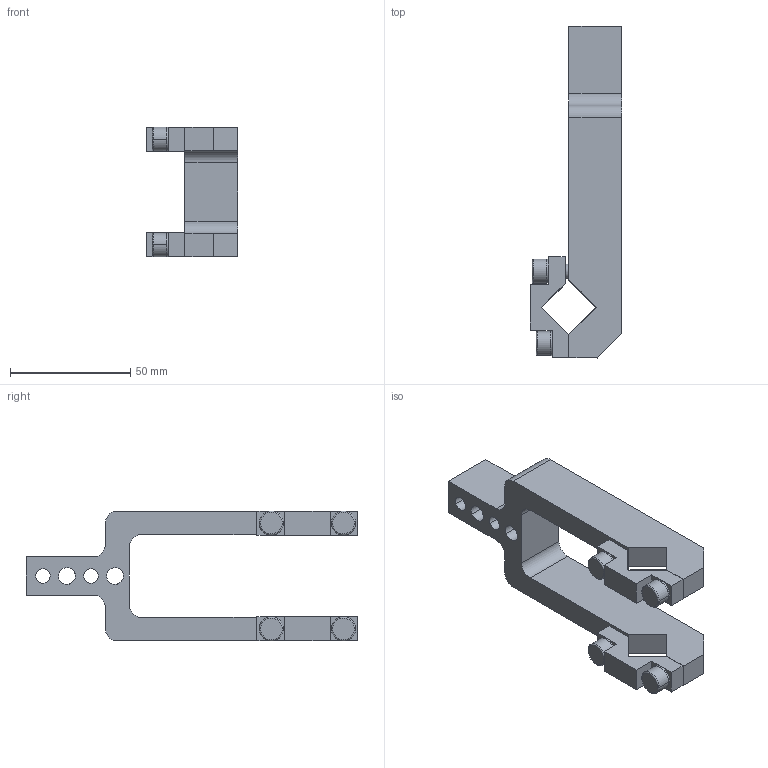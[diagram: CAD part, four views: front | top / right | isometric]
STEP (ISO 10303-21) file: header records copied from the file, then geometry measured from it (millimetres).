
FILE_DESCRIPTION(('CATIA V5 STEP Exchange'),'2;1');
FILE_NAME('E:\clampact\CLAMPACT\clampact\catalog\Clampact Arm\Arm 3D\Clampact Arm\arm_K40_00_2A50_Clampact.stp','2022-12-07T04:54:06+00:00',('none'),('none'),'CATIA Version 5 Release 19 SP 6 (IN-10)','CATIA V5 STEP AP203','none');
FILE_SCHEMA(('CONFIG_CONTROL_DESIGN'));
Length unit declared in the file: millimetre
Products named in the file (1): K40_00_2A50_Clampact_柯莱普
Bounding box: 38 x 138 x 54 mm (x, y, z)
Volume: 66698 mm3; surface area: 23956 mm2
Topology: 1 solids, 5 shells, 150 faces, 372 edges, 232 vertices
Faces by surface type: plane 72, cylinder 46, cone 20, torus 12
Entity records: 4195 total; most frequent: CARTESIAN_POINT 800, ORIENTED_EDGE 728, DIRECTION 580, EDGE_CURVE 364, AXIS2_PLACEMENT_3D 248, VERTEX_POINT 232, VECTOR 219, LINE 219
